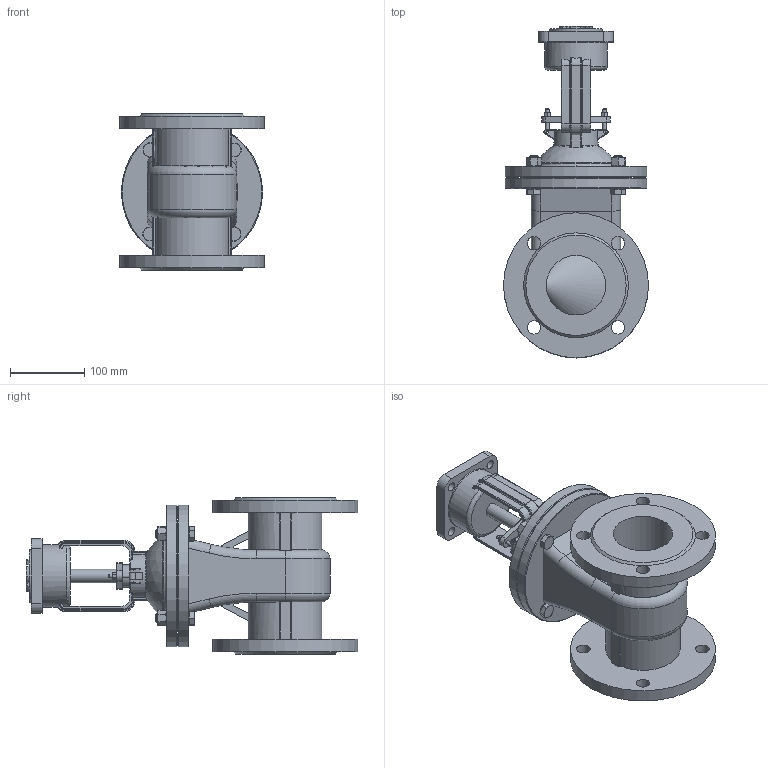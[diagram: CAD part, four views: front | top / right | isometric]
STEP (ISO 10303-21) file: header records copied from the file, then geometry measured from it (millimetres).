
FILE_DESCRIPTION(('STEP AP242'), '1');
FILE_NAME('GVWR3535M-2W-F-ÎÑÒ Çàäâèæêà êëèíîâàÿ ñ âûäâèæíûì øòîêîì Äó80 Ðó16', '2026-06-04T20:47:39', ('R2D2'), (''), 'C3D Converter', 'C3D Toolkit', '');
FILE_SCHEMA(('AP242_MANAGED_MODEL_BASED_3D_ENGINEERING_MIM_LF { 1 0 10303 442 1 1 4 }'));
Length unit declared in the file: millimetre
Products named in the file (1): GVWR3535M-2W-F-ОСТ
Bounding box: 195 x 446.5 x 210 mm (x, y, z)
Surface area: 470699.9 mm2 (no closed solid volume)
Topology: 0 solids, 1 shells, 802 faces, 2045 edges, 1278 vertices
Faces by surface type: plane 354, cylinder 159, cone 108, extrusion 101, torus 50, bspline 29, sphere 1
Full cylindrical faces by diameter (mm): 3 x3, 5 x4, 8 x2, 12 x12, 18 x10, 20 x1, 30 x1, 32 x1, 50 x1, 52 x1, 70 x1, 80 x2, 84.405 x1, 110 x2, 190 x2, 195 x2
Entity records: 44458 total; most frequent: CARTESIAN_POINT 19628, ORIENTED_EDGE 3960, DIRECTION 3345, EDGE_CURVE 1981, VERTEX_POINT 1276, AXIS2_PLACEMENT_3D 1192, VECTOR 961, EDGE_LOOP 960
